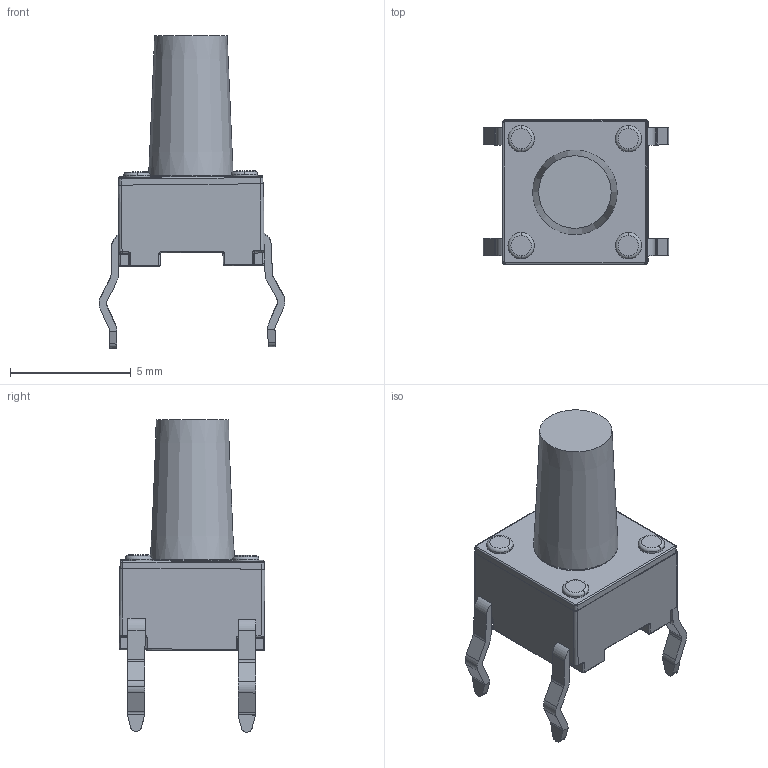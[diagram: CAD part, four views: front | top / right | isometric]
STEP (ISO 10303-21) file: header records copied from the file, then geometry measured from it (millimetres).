
FILE_DESCRIPTION(('FreeCAD Model'),'2;1');
FILE_NAME('C:/Users/Metaltex-99/Desktop/A06/A06-9.5.stp', '2021-08-13T14:49:05',('Engenharia Metaltex'),('Metaltex'), 'Open CASCADE STEP processor 7.3','FreeCAD','Unknown');
FILE_SCHEMA(('AUTOMOTIVE_DESIGN { 1 0 10303 214 1 1 1 1 }'));
Length unit declared in the file: millimetre
Products named in the file (3): A06-9.5; Cilindro; Base
Assembly tree (2 placements, depth 2):
  A06-9.5
    Cilindro
    Base
Bounding box: 7.69 x 6.03 x 12.94 mm (x, y, z)
Volume: 174.1 mm3; surface area: 277 mm2
Topology: 2 solids, 2 shells, 294 faces, 716 edges, 408 vertices
Faces by surface type: cylinder 139, plane 90, torus 38, sphere 24, revolution 2, cone 1
Full cylindrical faces by diameter (mm): 3.46 x1
Entity records: 20696 total; most frequent: CARTESIAN_POINT 4354, DIRECTION 2863, LINE 1523, VECTOR 1523, ORIENTED_EDGE 1384, PCURVE 1384, DEFINITIONAL_REPRESENTATION 1384, EDGE_CURVE 692
